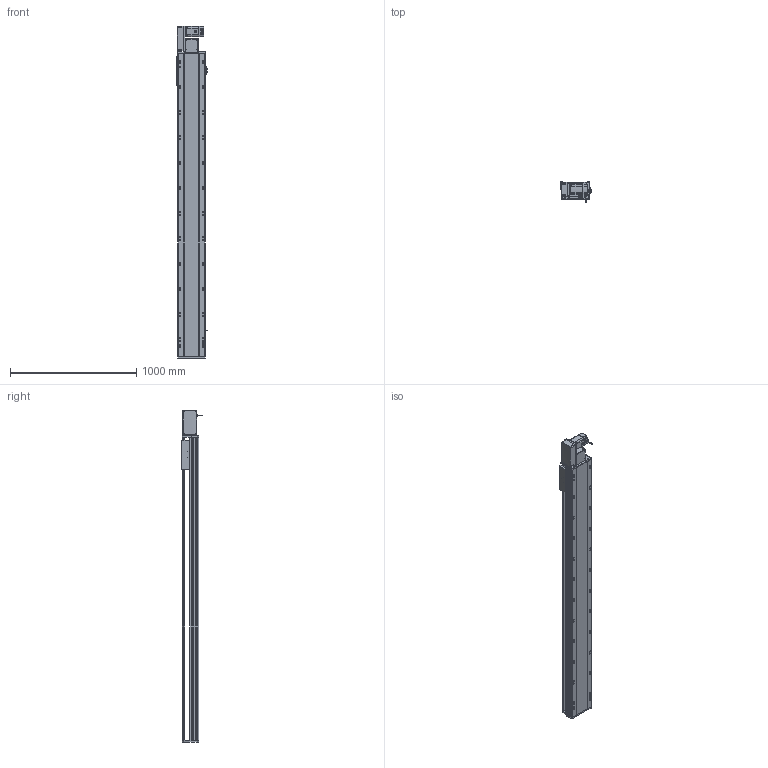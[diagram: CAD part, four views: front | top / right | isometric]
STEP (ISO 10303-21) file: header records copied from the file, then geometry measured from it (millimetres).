
FILE_DESCRIPTION (( 'STEP AP214' ), '1' );
FILE_NAME ('RTB22S-XX-2050-L-M75-C4.STEP', '2025-12-12T03:25:10', ( '' ), ( '' ), 'SwSTEP 2.0', 'SolidWorks 2018', '' );
FILE_SCHEMA (( 'AUTOMOTIVE_DESIGN' ));
Length unit declared in the file: millimetre
Products named in the file (14): RTH22-GY-013外置感应片^RTB22S-XX-XX-L-M75-C4; OMRON EE-SX672 传感器^RTB22S-XX-XX-L-M75-C4; RTB22S-XX-2050-L-M75-C4; RTB22S-GY-008-M75--萇儂啣^RTB22S-L-々湍釱蚾饜_RTB22S-XX-XX-L-M75-C4; RTB22S-GY-001耜裔^RTB22S-XX-XX-L-M75-C4; RTB22S-L-々湍釱蚾饜^RTB22S-XX-XX-L-M75-C4; RTB22S-GY-007奻裔^RTB22S-XX-XX-L-M75-C4; RTB22S-GY-005P^RTB22S-L-々湍釱蚾饜_RTB22S-XX-XX-L-M75-C4; RTB22S-GY-018P^RTB22S-L-々湍釱蚾饜_RTB22S-XX-XX-L-M75-C4; RTB22S-GY-014--々湍釱^RTB22S-L-々湍釱蚾饜_RTB22S-XX-XX-L-M75-C4; RTB22S-L-011菁釱^RTB22S-XX-XX-L-M75-C4; RTB22S-GY-017P^RTB22S-L-々湍釱蚾饜_RTB22S-XX-XX-L-M75-C4; RTB22S-L-004賑釱^RTB22S-XX-XX-L-M75-C4; 750W萇儂^RTB22S-XX-XX-L-M75-C4
Assembly tree (16 placements, depth 3):
  RTB22S-XX-2050-L-M75-C4
    RTB22S-L-011菁釱^RTB22S-XX-XX-L-M75-C4
    750W萇儂^RTB22S-XX-XX-L-M75-C4
    RTB22S-L-004賑釱^RTB22S-XX-XX-L-M75-C4
    OMRON EE-SX672 传感器^RTB22S-XX-XX-L-M75-C4  x3
    RTH22-GY-013外置感应片^RTB22S-XX-XX-L-M75-C4
    RTB22S-GY-007奻裔^RTB22S-XX-XX-L-M75-C4
    RTB22S-GY-001耜裔^RTB22S-XX-XX-L-M75-C4
    RTB22S-L-々湍釱蚾饜^RTB22S-XX-XX-L-M75-C4
      RTB22S-GY-014--々湍釱^RTB22S-L-々湍釱蚾饜_RTB22S-XX-XX-L-M75-C4
      RTB22S-GY-017P^RTB22S-L-々湍釱蚾饜_RTB22S-XX-XX-L-M75-C4  x2
      RTB22S-GY-005P^RTB22S-L-々湍釱蚾饜_RTB22S-XX-XX-L-M75-C4
      RTB22S-GY-008-M75--萇儂啣^RTB22S-L-々湍釱蚾饜_RTB22S-XX-XX-L-M75-C4
      RTB22S-GY-018P^RTB22S-L-々湍釱蚾饜_RTB22S-XX-XX-L-M75-C4
Bounding box: 238.5 x 162.7 x 2629 mm (x, y, z)
Volume: 33517661.3 mm3; surface area: 3440809.4 mm2
Topology: 15 solids, 15 shells, 2073 faces, 5636 edges, 3602 vertices
Faces by surface type: plane 925, cylinder 682, bspline 296, cone 158, sphere 8, torus 4
Entity records: 56058 total; most frequent: CARTESIAN_POINT 15912, ORIENTED_EDGE 8020, DIRECTION 7804, EDGE_CURVE 4010, AXIS2_PLACEMENT_3D 2786, VERTEX_POINT 2606, VECTOR 2232, LINE 2232
